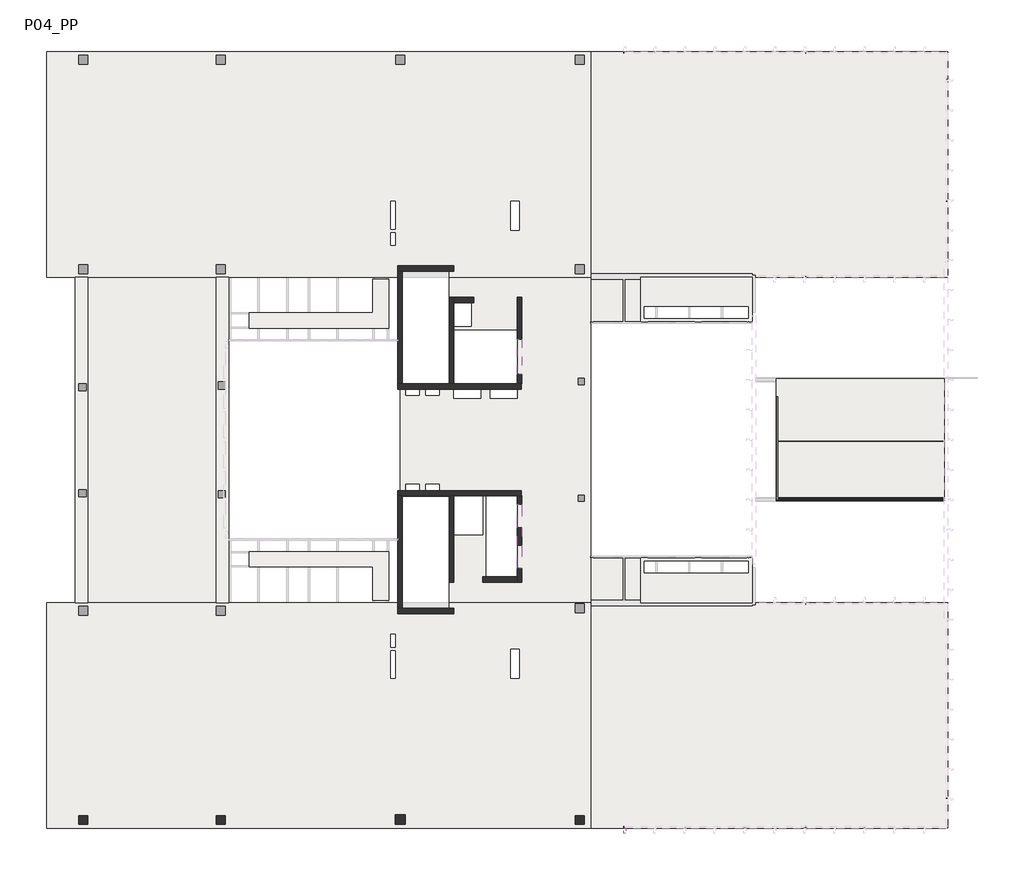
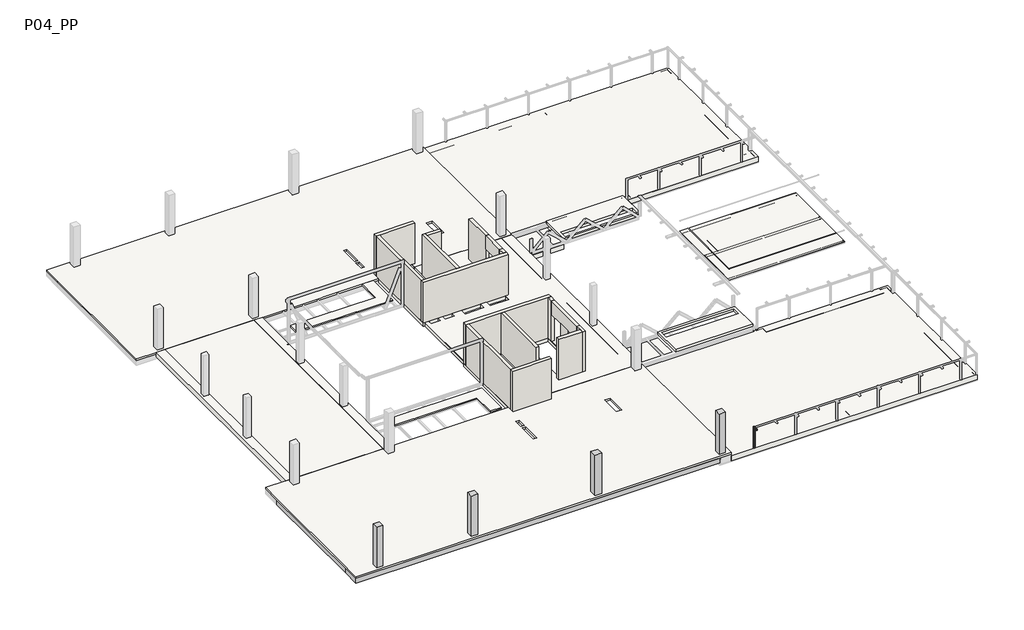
# One storey, part 1 of 5: 17 walls, 12 beams, 9 slabs, 5 columns.
"""IFC4 building model written with IfcOpenShell, lengths in millimetres."""

from ifc_helpers import new_model, si_unit, frame, origin, place, context, project, spatial, polyline, outline, extrude, faceted_brep, transform, mapped, element, save
from components import m_hss_rectangular_hss_100x100_c4b29c07, rhs_rectangular_hollow_section_column_100x100x5_0rhs_4e292c9f

model = new_model("IFC4")

# Units and contexts
model_context = context("Model", 3, world=origin())
ifc_project = project(units=[si_unit("LENGTHUNIT", "METRE", prefix="MILLI")], contexts=[model_context])

# Site, building, storey
site = spatial("IfcSite", under=ifc_project)
building = spatial("IfcBuilding", under=site)
storey = spatial("IfcBuildingStorey", under=building, Name="P04_PP", Elevation=22410.0)

# Beams
placement = place(None, origin())
element("IfcBeam", 1, ObjectType="M_Concrete-Rectangular Beam : 1500 x 550mm", at=placement, inside=storey, context=model_context, shape_type="Brep", body=[
    faceted_brep([(-33190.2931069, -17110.5871866, 21860.0), (-3816.6336782, -17110.5871866, 21860.0), (-3816.6336782, -17110.5871866, 22110.0), (-3763.6636999, -17110.5871866, 22110.0), (-3763.6636999, -17110.5871866, 22260.0), (-33190.2931069, -17110.5871866, 22260.0), (-33190.2931069, -15610.5871866, 21860.0), (-32490.2931069, -15610.5871866, 21860.0), (-31216.2708024, -15610.5871866, 21860.0), (-30816.2708024, -15610.5871866, 21860.0), (-29549.6041367, -15610.5871866, 21860.0), (-29149.6041367, -15610.5871866, 21860.0), (-27882.9374731, -15610.5871866, 21860.0), (-27482.9374731, -15610.5871866, 21860.0), (-26216.2708089, -15610.5871866, 21860.0), (-25816.2708089, -15610.5871866, 21860.0), (-24549.6041453, -15610.5871866, 21860.0), (-24149.6041453, -15610.5871866, 21860.0), (-22882.9374805, -15610.5871866, 21860.0), (-22482.9374805, -15610.5871866, 21860.0), (-21216.2708168, -15610.5871866, 21860.0), (-20816.2708168, -15610.5871866, 21860.0), (-19549.6041539, -15610.5871866, 21860.0), (-19149.6041539, -15610.5871866, 21860.0), (-17882.9374898, -15610.5871866, 21860.0), (-17482.9374898, -15610.5871866, 21860.0), (-16216.2708252, -15610.5871866, 21860.0), (-15816.2708252, -15610.5871866, 21860.0), (-14549.604161, -15610.5871866, 21860.0), (-14149.604161, -15610.5871866, 21860.0), (-12882.9374977, -15610.5871866, 21860.0), (-12482.9374977, -15610.5871866, 21860.0), (-11216.2708336, -15610.5871866, 21860.0), (-10816.2708336, -15610.5871866, 21860.0), (-9549.6041702, -15610.5871866, 21860.0), (-9149.6041702, -15610.5871866, 21860.0), (-7882.9375051, -15610.5871866, 21860.0), (-7482.9375051, -15610.5871866, 21860.0), (-6216.2708415, -15610.5871866, 21860.0), (-5816.2708415, -15610.5871866, 21860.0), (-4549.6041777, -15610.5871866, 21860.0), (-4149.6041777, -15610.5871866, 21860.0), (-3763.6636999, -15610.5871866, 21860.0), (-3763.6636999, -16360.5863397, 21860.0), (-3816.6336781, -16360.5863397, 21860.0), (-13241.1844603, -16910.5878685, 21860.0), (-13241.1844605, -16360.5878685, 21860.0), (-13791.1844605, -16360.5878687, 21860.0), (-13791.1844603, -16910.5878687, 21860.0), (-23240.1750541, -16910.5860682, 21860.0), (-23240.175054, -16360.5860682, 21860.0), (-23790.175054, -16360.5860681, 21860.0), (-23790.1750541, -16910.5860681, 21860.0), (-30841.1764478, -16910.5868854, 21860.0), (-30841.1764478, -16360.5868854, 21860.0), (-31391.1764478, -16360.5868854, 21860.0), (-31391.1764478, -16910.5868854, 21860.0), (-33190.2931069, -15610.5871866, 22260.0), (-32490.2931069, -15610.5871866, 22260.0), (-31216.2708024, -15610.5871866, 22260.0), (-30816.2708024, -15610.5871866, 22260.0), (-29549.6041367, -15610.5871866, 22260.0), (-29149.6041367, -15610.5871866, 22260.0), (-27882.9374731, -15610.5871866, 22260.0), (-27482.9374731, -15610.5871866, 22260.0), (-26216.2708089, -15610.5871866, 22260.0), (-25816.2708089, -15610.5871866, 22260.0), (-24549.6041453, -15610.5871866, 22260.0), (-24149.6041453, -15610.5871866, 22260.0), (-22882.9374805, -15610.5871866, 22260.0), (-22482.9374805, -15610.5871866, 22260.0), (-21216.2708168, -15610.5871866, 22260.0), (-20816.2708168, -15610.5871866, 22260.0), (-19549.6041539, -15610.5871866, 22260.0), (-19149.6041539, -15610.5871866, 22260.0), (-17882.9374898, -15610.5871866, 22260.0), (-17482.9374898, -15610.5871866, 22260.0), (-16216.2708252, -15610.5871866, 22260.0), (-15816.2708252, -15610.5871866, 22260.0), (-14549.604161, -15610.5871866, 22260.0), (-14149.604161, -15610.5871866, 22260.0), (-12882.9374977, -15610.5871866, 22260.0), (-12482.9374977, -15610.5871866, 22260.0), (-11216.2708336, -15610.5871866, 22260.0), (-10816.2708336, -15610.5871866, 22260.0), (-9549.6041702, -15610.5871866, 22260.0), (-9149.6041702, -15610.5871866, 22260.0), (-7882.9375051, -15610.5871866, 22260.0), (-7482.9375051, -15610.5871866, 22260.0), (-6216.2708415, -15610.5871866, 22260.0), (-5816.2708415, -15610.5871866, 22260.0), (-4549.6041777, -15610.5871866, 22260.0), (-4149.6041777, -15610.5871866, 22260.0), (-3763.6636999, -15610.5871866, 22260.0), (-3816.6336781, -16360.5863397, 22110.0), (-3816.6336782, -16910.5863397, 22110.0), (-3763.6636999, -16360.5863397, 22110.0), (-3763.6636999, -16910.5863397, 22110.0), (-13241.1844603, -16910.5878685, 22110.0), (-13241.1844605, -16360.5878685, 22110.0), (-13791.1844603, -16910.5878687, 22110.0), (-13791.1844605, -16360.5878687, 22110.0), (-23240.1750541, -16910.5860682, 22110.0), (-23240.175054, -16360.5860682, 22110.0), (-23790.1750541, -16910.5860681, 22110.0), (-23790.175054, -16360.5860681, 22110.0), (-30841.1764478, -16910.5868854, 22110.0), (-30841.1764478, -16360.5868854, 22110.0), (-31391.1764478, -16910.5868854, 22110.0), (-31391.1764478, -16360.5868854, 22110.0)], [[[0, 1, 2, 3, 4, 5]], [[0, 6, 7, 8, 9, 10, 11, 12, 13, 14, 15, 16, 17, 18, 19, 20, 21, 22, 23, 24, 25, 26, 27, 28, 29, 30, 31, 32, 33, 34, 35, 36, 37, 38, 39, 40, 41, 42, 43, 44, 1], [45, 46, 47, 48], [49, 50, 51, 52], [53, 54, 55, 56]], [[42, 41, 40, 39, 38, 37, 36, 35, 34, 33, 32, 31, 30, 29, 28, 27, 26, 25, 24, 23, 22, 21, 20, 19, 18, 17, 16, 15, 14, 13, 12, 11, 10, 9, 8, 7, 6, 57, 58, 59, 60, 61, 62, 63, 64, 65, 66, 67, 68, 69, 70, 71, 72, 73, 74, 75, 76, 77, 78, 79, 80, 81, 82, 83, 84, 85, 86, 87, 88, 89, 90, 91, 92, 93]], [[6, 0, 5, 57]], [[44, 94, 95, 2, 1]], [[94, 44, 43, 96]], [[94, 96, 97, 3, 2, 95]], [[98, 99, 46, 45]], [[100, 98, 45, 48]], [[101, 100, 48, 47]], [[99, 101, 47, 46]], [[99, 98, 100, 101]], [[102, 103, 50, 49]], [[104, 102, 49, 52]], [[105, 104, 52, 51]], [[103, 105, 51, 50]], [[103, 102, 104, 105]], [[106, 107, 54, 53]], [[108, 106, 53, 56]], [[109, 108, 56, 55]], [[107, 109, 55, 54]], [[107, 106, 108, 109]], [[43, 42, 93, 4, 3, 97, 96]], [[5, 4, 93, 92, 91, 90, 89, 88, 87, 86, 85, 84, 83, 82, 81, 80, 79, 78, 77, 76, 75, 74, 73, 72, 71, 70, 69, 68, 67, 66, 65, 64, 63, 62, 61, 60, 59, 58, 57]]]),
])
element("IfcBeam", 2, ObjectType="M_Concrete-Rectangular Beam : 400 x 550mm", at=placement, inside=storey, context=model_context, shape_type="SweptSolid", body=[
    extrude(outline(polyline([(-31216.2708024, -6060.5861501), (-30816.2708024, -6060.5861501), (-30816.2708024, -15610.5871866), (-31216.2708024, -15610.5871866), (-31216.2708024, -6060.5861501)])), frame((0.0, 0.0, 21860.0), z_axis=(0.0, 0.0, 1.0), x_axis=(1.0, 0.0, 0.0)), (0.0, 0.0, 1.0), 400.0),
])
element("IfcBeam", 3, ObjectType="M_Concrete-Rectangular Beam : 400 x 550mm", at=placement, inside=storey, context=model_context, shape_type="SweptSolid", body=[
    extrude(outline(polyline([(-29549.6041367, -6060.5861501), (-29149.6041367, -6060.5861501), (-29149.6041367, -15610.5871866), (-29549.6041367, -15610.5871866), (-29549.6041367, -6060.5861501)])), frame((0.0, 0.0, 21860.0), z_axis=(0.0, 0.0, 1.0), x_axis=(1.0, 0.0, 0.0)), (0.0, 0.0, 1.0), 400.0),
])
element("IfcBeam", 4, ObjectType="M_Concrete-Rectangular Beam : 400 x 550mm", at=placement, inside=storey, context=model_context, shape_type="SweptSolid", body=[
    extrude(outline(polyline([(-27882.9374731, -6060.5861501), (-27482.9374731, -6060.5861501), (-27482.9374731, -15610.5871866), (-27882.9374731, -15610.5871866), (-27882.9374731, -6060.5861501)])), frame((0.0, 0.0, 21860.0), z_axis=(0.0, 0.0, 1.0), x_axis=(1.0, 0.0, 0.0)), (0.0, 0.0, 1.0), 400.0),
])
element("IfcBeam", 5, ObjectType="M_Concrete-Rectangular Beam : 400 x 550mm", at=placement, inside=storey, context=model_context, shape_type="SweptSolid", body=[
    extrude(outline(polyline([(-26216.2708089, -6060.5861501), (-25816.2708089, -6060.5861501), (-25816.2708089, -15610.5871866), (-26216.2708089, -15610.5871866), (-26216.2708089, -6060.5861501)])), frame((0.0, 0.0, 21860.0), z_axis=(0.0, 0.0, 1.0), x_axis=(1.0, 0.0, 0.0)), (0.0, 0.0, 1.0), 400.0),
])
element("IfcBeam", 6, ObjectType="M_Concrete-Rectangular Beam : 400 x 550mm", at=placement, inside=storey, context=model_context, shape_type="SweptSolid", body=[
    extrude(outline(polyline([(-24549.6041453, -6060.5861501), (-24149.6041453, -6060.5861501), (-24149.6041453, -15610.5871866), (-24549.6041453, -15610.5871866), (-24549.6041453, -6060.5861501)])), frame((0.0, 0.0, 21860.0), z_axis=(0.0, 0.0, 1.0), x_axis=(1.0, 0.0, 0.0)), (0.0, 0.0, 1.0), 400.0),
])
element("IfcBeam", 7, ObjectType="M_Concrete-Rectangular Beam : 400 x 550mm", at=placement, inside=storey, context=model_context, shape_type="SweptSolid", body=[
    extrude(outline(polyline([(-22882.9374805, -6060.5861501), (-22482.9374805, -6060.5861501), (-22482.9374805, -15610.5871866), (-22882.9374805, -15610.5871866), (-22882.9374805, -6060.5861501)])), frame((0.0, 0.0, 21860.0), z_axis=(0.0, 0.0, 1.0), x_axis=(1.0, 0.0, 0.0)), (0.0, 0.0, 1.0), 400.0),
])
element("IfcBeam", 8, ObjectType="M_Concrete-Rectangular Beam : 400 x 550mm", at=placement, inside=storey, context=model_context, shape_type="SweptSolid", body=[
    extrude(outline(polyline([(-21216.2708168, -6060.5861501), (-20816.2708168, -6060.5861501), (-20816.2708168, -15610.5871866), (-21216.2708168, -15610.5871866), (-21216.2708168, -6060.5861501)])), frame((0.0, 0.0, 21860.0), z_axis=(0.0, 0.0, 1.0), x_axis=(1.0, 0.0, 0.0)), (0.0, 0.0, 1.0), 400.0),
])
element("IfcBeam", 9, ObjectType="M_Concrete-Rectangular Beam : 400 x 550mm", at=placement, inside=storey, context=model_context, shape_type="SweptSolid", body=[
    extrude(outline(polyline([(-19549.6041539, -6060.5861501), (-19149.6041539, -6060.5861501), (-19149.6041539, -15610.5871866), (-19549.6041539, -15610.5871866), (-19549.6041539, -6060.5861501)])), frame((0.0, 0.0, 21860.0), z_axis=(0.0, 0.0, 1.0), x_axis=(1.0, 0.0, 0.0)), (0.0, 0.0, 1.0), 400.0),
])
element("IfcBeam", 10, ObjectType="M_Concrete-Rectangular Beam : 400 x 550mm", at=placement, inside=storey, context=model_context, shape_type="SweptSolid", body=[
    extrude(outline(polyline([(-17882.9374898, -6060.5861501), (-17482.9374898, -6060.5861501), (-17482.9374898, -15610.5871866), (-17882.9374898, -15610.5871866), (-17882.9374898, -6060.5861501)])), frame((0.0, 0.0, 21860.0), z_axis=(0.0, 0.0, 1.0), x_axis=(1.0, 0.0, 0.0)), (0.0, 0.0, 1.0), 400.0),
])
element("IfcBeam", 11, ObjectType="M_Concrete-Rectangular Beam : 700 x 550mm", at=placement, inside=storey, context=model_context, shape_type="SweptSolid", body=[
    extrude(outline(polyline([(-33190.2931069, -6060.5861501), (-32490.2931069, -6060.5861501), (-32490.2931069, -15610.5871866), (-33190.2931069, -15610.5871866), (-33190.2931069, -6060.5861501)])), frame((0.0, 0.0, 21860.0), z_axis=(0.0, 0.0, 1.0), x_axis=(1.0, 0.0, 0.0)), (0.0, 0.0, 1.0), 400.0),
])
m_hss_rectangular_hss_100x100_shape = m_hss_rectangular_hss_100x100_c4b29c07(model_context)
element("IfcBeam", 12, ObjectType="M_HSS Rectangular : HSS 100x100", at=placement, inside=storey, context=model_context, shape_type="MappedRepresentation", body=[
    mapped(m_hss_rectangular_hss_100x100_shape, transform((-1015.318447, -17225.5845792, 23860.0), x_axis=(1.2959202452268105e-06, -0.9999999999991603, 0.0), y_axis=(0.9999999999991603, 1.2959202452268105e-06, 0.0), z_axis=(0.0, 0.0, 1.0))),
])

# Columns
element("IfcColumn", 13, ObjectType="Concrete-Rectangular-Column : Pilar_Rectangular-Formigo-500x500", at=placement, inside=storey, context=model_context, shape_type="Brep", body=[
    faceted_brep([(-3266.6679062, -16410.606681, 22410.0), (-3266.6679018, -16910.606681, 22410.0), (-3766.6679018, -16910.6066854, 22410.0), (-3766.6679062, -16410.6066854, 22410.0), (-3266.6679062, -16410.606681, 25860.0), (-3266.6679018, -16910.606681, 25860.0), (-3266.6679018, -16910.606681, 25610.0), (-3266.6679062, -16410.606681, 25610.0), (-3766.6679018, -16910.6066854, 25860.0), (-3766.6679018, -16910.6066854, 25610.0), (-3766.6679062, -16410.6066854, 25860.0), (-3766.6679062, -16410.6066854, 25610.0)], [[[0, 1, 2, 3]], [[4, 5, 6, 1, 0, 7]], [[5, 8, 9, 2, 1, 6]], [[8, 10, 11, 3, 2, 9]], [[10, 4, 7, 0, 3, 11]], [[4, 10, 8, 5]]]),
])
element("IfcColumn", 14, ObjectType="Concrete-Rectangular-Column : Pilar_Rectangular-Formigo-550x550", at=placement, inside=storey, context=model_context, shape_type="Brep", body=[
    faceted_brep([(-13241.2186928, -16360.5863263, 22410.0), (-13241.2186884, -16910.5863263, 22410.0), (-13791.2186884, -16910.5863307, 22410.0), (-13791.2186928, -16360.5863307, 22410.0), (-13241.2186928, -16360.5863263, 25860.0), (-13241.2186884, -16910.5863263, 25860.0), (-13241.2186884, -16910.5863263, 25610.0), (-13241.2186928, -16360.5863263, 25610.0), (-13791.2186884, -16910.5863307, 25860.0), (-13791.2186884, -16910.5863307, 25610.0), (-13791.2186928, -16360.5863307, 25860.0), (-13791.2186928, -16360.5863307, 25610.0)], [[[0, 1, 2, 3]], [[4, 5, 6, 1, 0, 7]], [[5, 8, 9, 2, 1, 6]], [[8, 10, 11, 3, 2, 9]], [[10, 4, 7, 0, 3, 11]], [[4, 10, 8, 5]]]),
])
element("IfcColumn", 15, ObjectType="Concrete-Rectangular-Column : Pilar_Rectangular-Formigo-500x500", at=placement, inside=storey, context=model_context, shape_type="Brep", body=[
    faceted_brep([(-23241.0752906, -16410.6064, 22410.0), (-23241.075288, -16910.6064, 22410.0), (-23741.075288, -16910.6064026, 22410.0), (-23741.0752906, -16410.6064026, 22410.0), (-23241.0752906, -16410.6064, 25860.0), (-23241.075288, -16910.6064, 25860.0), (-23241.075288, -16910.6064, 25610.0), (-23241.0752906, -16410.6064, 25610.0), (-23741.075288, -16910.6064026, 25860.0), (-23741.075288, -16910.6064026, 25610.0), (-23741.0752906, -16410.6064026, 25860.0), (-23741.0752906, -16410.6064026, 25610.0)], [[[0, 1, 2, 3]], [[4, 5, 6, 1, 0, 7]], [[5, 8, 9, 2, 1, 6]], [[8, 10, 11, 3, 2, 9]], [[10, 4, 7, 0, 3, 11]], [[4, 10, 8, 5]]]),
])
element("IfcColumn", 16, ObjectType="Concrete-Rectangular-Column : Pilar_Rectangular-Formigo-500x500", at=placement, inside=storey, context=model_context, shape_type="Brep", body=[
    faceted_brep([(-30891.2106755, -16410.6072254, 22410.0), (-30891.2106729, -16910.6072254, 22410.0), (-31391.2106729, -16910.607228, 22410.0), (-31391.2106755, -16410.607228, 22410.0), (-30891.2106755, -16410.6072254, 25860.0), (-30891.2106729, -16910.6072254, 25860.0), (-30891.2106729, -16910.6072254, 25610.0), (-30891.2106755, -16410.6072254, 25610.0), (-31391.2106729, -16910.607228, 25860.0), (-31391.2106729, -16910.607228, 25610.0), (-31391.2106755, -16410.607228, 25860.0), (-31391.2106755, -16410.607228, 25610.0)], [[[0, 1, 2, 3]], [[4, 5, 6, 1, 0, 7]], [[5, 8, 9, 2, 1, 6]], [[8, 10, 11, 3, 2, 9]], [[10, 4, 7, 0, 3, 11]], [[4, 10, 8, 5]]]),
])
rhs_rectangular_hollow_section_column_100x100x5_0rhs_shape = rhs_rectangular_hollow_section_column_100x100x5_0rhs_4e292c9f(model_context)
element("IfcColumn", 17, ObjectType="RHS-Rectangular Hollow Section-Column : 100x100x5.0RHS", at=placement, inside=storey, context=model_context, shape_type="MappedRepresentation", body=[
    mapped(rhs_rectangular_hollow_section_column_100x100x5_0rhs_shape, transform((-1015.3191505, -17060.5829556, 0.0), x_axis=(0.9999999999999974, 7.31663958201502e-08, 0.0), y_axis=(-7.31663958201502e-08, 0.9999999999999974, 0.0), z_axis=(0.0, 0.0, 1.0))),
])

# Slabs
element("IfcSlab", 18, ObjectType="Forjat_Llosa-Formigo-200", at=placement, inside=storey, context=model_context, shape_type="SweptSolid", body=[
    extrude(outline(polyline([(6059.7238546, 13539.4122612), (6059.7238546, 11054.6240603), (-132.741034, 11054.6238674), (-132.741034, 13539.4122612), (6059.7238546, 13539.4122612)]), holes=[polyline([(5859.7238546, 11880.9207925), (67.258966, 11880.9209764), (67.258966, 11254.6239488), (5859.7238546, 11254.6239488), (5859.7238546, 11880.9207925)])]), frame((0.0, 0.0, 22410.0), z_axis=(0.0, 0.0, 1.0), x_axis=(1.0, 0.0, 0.0)), (0.0, 0.0, 1.0), 200.0),
])
element("IfcSlab", 19, ObjectType="Forjat_Llosa-Formigo-400", at=placement, inside=storey, context=model_context, shape_type="SweptSolid", body=[
    extrude(outline(polyline([(16958.7687509, -17110.5883768), (-2913.6343046, -17110.5883881), (-2913.6343132, -2074.8316091), (-132.741028, -2074.8316974), (-132.741028, -4560.5873134), (16958.7687437, -4560.5873036), (16958.7687509, -17110.5883768)])), frame((0.0, 0.0, 21710.0), z_axis=(0.0, 0.0, 1.0), x_axis=(1.0, 0.0, 0.0)), (0.0, 0.0, 1.0), 400.0),
    extrude(outline(polyline([(16958.7687108, 26089.4122824), (16958.768718, 13539.4122723), (-132.741034, 13539.4122625), (-132.741034, 11054.6239613), (-2912.724477, 11054.6238747), (-2912.7244856, 26089.4122711), (16958.7687108, 26089.4122824)])), frame((0.0, 0.0, 21710.0), z_axis=(0.0, 0.0, 1.0), x_axis=(1.0, 0.0, 0.0)), (0.0, 0.0, 1.0), 400.0),
])
element("IfcSlab", 20, ObjectType="Forjat_Llosa-Formigo-150", at=placement, inside=storey, context=model_context, shape_type="Brep", body=[
    faceted_brep([(-33190.2931093, -17110.5868311, 22260.0), (-33190.2931093, -4560.5857933, 22260.0), (-13390.3216429, -4560.5857933, 22260.0), (-13390.3216429, -4885.1039312, 22260.0), (-10790.2146087, -4885.1039312, 22260.0), (-10790.2146087, -4560.5857933, 22260.0), (-2913.6343046, -4560.5857933, 22260.0), (-2913.6343046, -6060.5861501, 22260.0), (-2913.6343046, -17110.5868311, 22260.0), (-7355.3596943, -8775.7081757, 22260.0), (-6905.3202496, -8775.7081751, 22260.0), (-6905.3202486, -7164.135997, 22260.0), (-7355.3596935, -7164.1359972, 22260.0), (-13795.316559, -7035.8370988, 22260.0), (-13795.3165589, -6335.8371015, 22260.0), (-14045.3165545, -6335.8371012, 22260.0), (-14045.3165543, -7035.8370994, 22260.0), (-13795.3165592, -8774.2557811, 22260.0), (-13795.316559, -7235.8371005, 22260.0), (-14045.3165585, -7235.8371008, 22260.0), (-14045.3165588, -8774.2557822, 22260.0), (-33190.2931093, -4560.5857933, 22410.0), (-33190.2931093, -17110.5868311, 22410.0), (-2913.6343046, -17110.5868311, 22410.0), (-2913.6343046, -4560.5857933, 22410.0), (-3763.6343046, -4560.5857933, 22410.0), (-6715.3241677, -4560.5857933, 22410.0), (-7015.3241677, -4560.5857933, 22410.0), (-10790.2146087, -4560.5857933, 22410.0), (-10790.2146087, -4885.1039312, 22410.0), (-13390.3216429, -4885.1039312, 22410.0), (-13390.3216429, -4560.5857933, 22410.0), (-23041.1819308, -4560.5857933, 22410.0), (-23741.1819308, -4560.5857933, 22410.0), (-30891.2267916, -4560.5857933, 22410.0), (-31591.2267916, -4560.5857933, 22410.0), (-6905.3202496, -8775.7081751, 22410.0), (-7355.3596943, -8775.7081757, 22410.0), (-7355.3596935, -7164.1359972, 22410.0), (-6905.3202486, -7164.135997, 22410.0), (-13795.3165589, -6335.8371015, 22410.0), (-13795.316559, -7035.8370988, 22410.0), (-14045.3165543, -7035.8370994, 22410.0), (-14045.3165545, -6335.8371012, 22410.0), (-13795.316559, -7235.8371005, 22410.0), (-13795.3165592, -8774.2557811, 22410.0), (-14045.3165588, -8774.2557822, 22410.0), (-14045.3165585, -7235.8371008, 22410.0)], [[[0, 1, 2, 3, 4, 5, 6, 7, 8], [9, 10, 11, 12], [13, 14, 15, 16], [17, 18, 19, 20]], [[21, 22, 23, 24, 25, 26, 27, 28, 29, 30, 31, 32, 33, 34, 35], [36, 37, 38, 39], [40, 41, 42, 43], [44, 45, 46, 47]], [[1, 0, 22, 21]], [[1, 21, 35, 34, 33, 32, 31, 2]], [[24, 6, 5, 28, 27, 26, 25]], [[8, 7, 6, 24, 23]], [[0, 8, 23, 22]], [[4, 29, 28, 5]], [[30, 3, 2, 31]], [[29, 4, 3, 30]], [[9, 37, 36, 10]], [[10, 36, 39, 11]], [[11, 39, 38, 12]], [[37, 9, 12, 38]], [[13, 41, 40, 14]], [[14, 40, 43, 15]], [[15, 43, 42, 16]], [[41, 13, 16, 42]], [[17, 45, 44, 18]], [[18, 44, 47, 19]], [[19, 47, 46, 20]], [[45, 17, 20, 46]]]),
    faceted_brep([(-33190.2931069, 13539.4137942, 22260.0), (-33190.2931069, 15039.4134441, 22260.0), (-33190.2931069, 24589.4144807, 22260.0), (-33190.2931069, 26089.4138015, 22260.0), (-2913.6636999, 26089.4138015, 22260.0), (-2913.6636999, 15039.4134441, 22260.0), (-2913.6636999, 13539.4137942, 22260.0), (-10790.2146087, 13539.4137942, 22260.0), (-10790.2146087, 13864.8960677, 22260.0), (-13390.3216429, 13864.8960677, 22260.0), (-13390.3216429, 13539.4137942, 22260.0), (-7355.3596943, 17755.5003122, 22260.0), (-7355.3596935, 16143.9281337, 22260.0), (-6905.3202486, 16143.9281335, 22260.0), (-6905.3202496, 17755.5003116, 22260.0), (-13795.316559, 16015.6292353, 22260.0), (-14045.3165543, 16015.6292358, 22260.0), (-14045.3165545, 15315.6292377, 22260.0), (-13795.3165589, 15315.629238, 22260.0), (-13795.3165592, 17754.0479176, 22260.0), (-14045.3165588, 17754.0479187, 22260.0), (-14045.3165585, 16215.6292373, 22260.0), (-13795.316559, 16215.629237, 22260.0), (-33190.2931069, 26089.4138015, 22410.0), (-33190.2931069, 13539.4137942, 22410.0), (-31591.2267916, 13539.4137942, 22410.0), (-30891.2267916, 13539.4137942, 22410.0), (-23741.1819308, 13539.4137942, 22410.0), (-23041.1819308, 13539.4137942, 22410.0), (-13390.3216429, 13539.4137942, 22410.0), (-13390.3216429, 13864.8960677, 22410.0), (-10790.2146087, 13864.8960677, 22410.0), (-10790.2146087, 13539.4137942, 22410.0), (-7015.3241677, 13539.4137942, 22410.0), (-6715.3241677, 13539.4137942, 22410.0), (-3763.6343046, 13539.4137942, 22410.0), (-2913.6636999, 13539.4137942, 22410.0), (-2913.6636999, 26089.4138015, 22410.0), (-7355.3596935, 16143.9281337, 22410.0), (-7355.3596943, 17755.5003122, 22410.0), (-6905.3202496, 17755.5003116, 22410.0), (-6905.3202486, 16143.9281335, 22410.0), (-14045.3165543, 16015.6292358, 22410.0), (-13795.316559, 16015.6292353, 22410.0), (-13795.3165589, 15315.629238, 22410.0), (-14045.3165545, 15315.6292377, 22410.0), (-14045.3165588, 17754.0479187, 22410.0), (-13795.3165592, 17754.0479176, 22410.0), (-13795.316559, 16215.629237, 22410.0), (-14045.3165585, 16215.6292373, 22410.0)], [[[0, 1, 2, 3, 4, 5, 6, 7, 8, 9, 10], [11, 12, 13, 14], [15, 16, 17, 18], [19, 20, 21, 22]], [[23, 24, 25, 26, 27, 28, 29, 30, 31, 32, 33, 34, 35, 36, 37], [38, 39, 40, 41], [42, 43, 44, 45], [46, 47, 48, 49]], [[24, 0, 10, 29, 28, 27, 26, 25]], [[6, 36, 35, 34, 33, 32, 7]], [[3, 2, 1, 0, 24, 23]], [[4, 3, 23, 37]], [[6, 5, 4, 37, 36]], [[8, 31, 30, 9]], [[9, 30, 29, 10]], [[31, 8, 7, 32]], [[11, 39, 38, 12]], [[12, 38, 41, 13]], [[13, 41, 40, 14]], [[39, 11, 14, 40]], [[15, 43, 42, 16]], [[16, 42, 45, 17]], [[17, 45, 44, 18]], [[43, 15, 18, 44]], [[19, 47, 46, 20]], [[20, 46, 49, 21]], [[21, 49, 48, 22]], [[47, 19, 22, 48]]]),
])
element("IfcSlab", 21, ObjectType="Forjat_Llosa-Formigo-300", at=placement, inside=storey, context=model_context, shape_type="SweptSolid", body=[
    extrude(outline(polyline([(-23041.1819308, -4560.5873615), (-31591.2267813, -4560.5873663), (-31591.2267916, 13539.4122314), (-23041.1819408, 13539.4122363), (-23041.1819308, -4560.5873615)])), frame((0.0, 0.0, 22110.0), z_axis=(0.0, 0.0, 1.0), x_axis=(1.0, 0.0, 0.0)), (0.0, 0.0, 1.0), 300.0),
    extrude(outline(polyline([(-13640.3216401, 7314.8960673), (-13640.3216435, 13539.4134441), (-13390.3216429, 13539.4134442), (-13390.3216429, 7614.8960673), (-10790.2146087, 7614.8960673), (-10790.2146087, 13539.4134456), (-2913.634315, 13539.4134499), (-2913.6343046, -4560.5873347), (-10790.2146087, -4560.5873432), (-10790.2146087, 1364.8960692), (-13390.3216429, 1364.8960692), (-13390.3216429, -4560.587346), (-13640.3216336, -4560.5873463), (-13640.321637, 1664.8960692), (-13515.321637, 1664.8960692), (-13515.3216435, 7314.8960673), (-13640.3216401, 7314.8960673)]), holes=[polyline([(-8915.3273673, -795.1004405), (-8915.3273673, 1364.8960692), (-10540.2146087, 1364.8960692), (-10540.2146087, -795.1004405), (-8915.3273673, -795.1004405)]), polyline([(-7015.32737, -3135.1012912), (-7015.32737, 1364.8960692), (-8715.3273692, 1364.8960692), (-8715.3273692, -3135.1012912), (-7015.32737, -3135.1012912)]), polyline([(-7015.3216444, 10594.8839421), (-10540.2146087, 10594.8839421), (-10540.2146087, 7614.8960673), (-7015.3216444, 7614.8960673), (-7015.3216444, 10594.8839421)]), polyline([(-9575.3241515, 12114.8934277), (-10540.2146087, 12114.8934277), (-10540.2146087, 10794.8973525), (-9575.3241515, 10794.8973525), (-9575.3241515, 12114.8934277)]), polyline([(-12465.3183759, 6964.8891848), (-12465.3183704, 7314.8960673), (-13215.3183723, 7314.8960673), (-13215.3183768, 6964.8891841), (-12465.3183759, 6964.8891848)]), polyline([(-12090.3183694, 6964.8891882), (-11340.3183722, 6964.8891882), (-11340.3183685, 7314.8960673), (-12090.3183704, 7314.8960673), (-12090.3183694, 6964.8891882)]), polyline([(-12465.317339, 2014.8973051), (-13215.3183744, 2014.8973051), (-13215.3183744, 1664.8968204), (-12465.317339, 1664.8968204), (-12465.317339, 2014.8973051)]), polyline([(-11340.3173363, 2014.8973051), (-12090.3183821, 2014.8973051), (-12090.3183821, 1664.8968204), (-11340.3173363, 1664.8968204), (-11340.3173363, 2014.8973051)]), polyline([(-9040.3216312, 7314.8929869), (-10540.3361965, 7314.8929869), (-10540.3361965, 6814.888132), (-9040.3216312, 6814.888132), (-9040.3216312, 7314.8929869)]), polyline([(-7015.3241584, 7314.892988), (-8515.3387237, 7314.892988), (-8515.3387237, 6814.888133), (-7015.3241584, 6814.888133), (-7015.3241584, 7314.892988)])]), frame((0.0, 0.0, 22110.0), z_axis=(0.0, 0.0, 1.0), x_axis=(1.0, 0.0, 0.0)), (0.0, 0.0, 1.0), 300.0),
])
element("IfcSlab", 22, ObjectType="Forjat_Llosa-Formigo-400", at=placement, inside=storey, context=model_context, shape_type="SweptSolid", body=[
    extrude(outline(polyline([(-31591.2255939, -4560.5873663), (-31591.2256043, 13539.4122314), (-30891.2267996, 13539.4122318), (-30891.2267788, -4560.5873659), (-31591.2255939, -4560.5873663)])), frame((0.0, 0.0, 22010.0), z_axis=(0.0, 0.0, 1.0), x_axis=(1.0, 0.0, 0.0)), (0.0, 0.0, 1.0), 400.0),
    extrude(outline(polyline([(-23741.1819185, -4560.5873571), (-23741.1819402, 13539.4122428), (-23041.1835137, 13539.4122432), (-23041.1835037, -4560.5873564), (-23741.1819185, -4560.5873571)])), frame((0.0, 0.0, 22010.0), z_axis=(0.0, 0.0, 1.0), x_axis=(1.0, 0.0, 0.0)), (0.0, 0.0, 1.0), 400.0),
])
element("IfcSlab", 23, ObjectType="Forjat_Llosa-Relliga-100", at=placement, inside=storey, context=model_context, shape_type="SweptSolid", body=[
    extrude(outline(polyline([(-21915.4459309, -2583.0874625), (-21915.4459314, -1728.0871839), (-14149.4459331, -1728.0871839), (-14149.4459331, -4439.621344), (-15031.4459326, -4439.621344), (-15031.4459326, -2583.0874625), (-21915.4459309, -2583.0874625)])), frame((0.0, 0.0, 22410.0), z_axis=(0.0, 0.0, 1.0), x_axis=(1.0, 0.0, 0.0)), (0.0, 0.0, 1.0), 100.0),
])
element("IfcSlab", 24, ObjectType="Forjat_Llosa-Formigo-200", at=placement, inside=storey, context=model_context, shape_type="SweptSolid", body=[
    extrude(outline(polyline([(6059.7238546, -4560.5849672), (-132.741034, -4560.5849672), (-132.741034, -2075.7965734), (6059.7238546, -2075.7967663), (6059.7238546, -4560.5849672)]), holes=[polyline([(5859.7238546, -2902.0934985), (5859.7238546, -2275.7966548), (67.258966, -2275.7966548), (67.258966, -2902.0936824), (5859.7238546, -2902.0934985)])]), frame((0.0, 0.0, 22410.0), z_axis=(0.0, 0.0, 1.0), x_axis=(1.0, 0.0, 0.0)), (0.0, 0.0, 1.0), 200.0),
])
element("IfcSlab", 25, ObjectType="Forjat_Llosa-Relliga-100", at=placement, inside=storey, context=model_context, shape_type="SweptSolid", body=[
    extrude(outline(polyline([(-21915.4459309, 11562.8793206), (-15031.4459326, 11562.8793206), (-15031.4459326, 13419.4132021), (-14149.4459331, 13419.4132021), (-14149.4459331, 10707.879042), (-21915.4459314, 10707.879042), (-21915.4459309, 11562.8793206)])), frame((0.0, 0.0, 22410.0), z_axis=(0.0, 0.0, 1.0), x_axis=(1.0, 0.0, 0.0)), (0.0, 0.0, 1.0), 100.0),
])
element("IfcSlab", 26, ObjectType="Forjat_Llosa-Relliga-30", at=placement, inside=storey, context=model_context, shape_type="SweptSolid", body=[
    extrude(outline(polyline([(16759.6605952, 1065.745941), (7419.0763518, 1065.7459874), (7419.0763518, 7932.545989), (16759.6605944, 7932.5459425), (16759.6605952, 1065.745941)])), frame((0.0, 0.0, 22480.0), z_axis=(0.0, 0.0, 1.0), x_axis=(1.0, 0.0, 0.0)), (0.0, 0.0, 1.0), 30.0),
])

# Walls
element("IfcWall", 27, ObjectType="0_Muro Concreto_250", at=placement, inside=storey, context=model_context, shape_type="Brep", body=[
    faceted_brep([(-13640.3216429, 13864.8960687, 22410.0), (-13640.3216429, 7614.8960673, 22410.0), (-13640.3216429, 7614.8960673, 25859.9777344), (-13640.3216429, 13539.4134441, 25859.9777344), (-13640.3216429, 13864.8960687, 25859.9777344), (-13390.3216429, 13864.8960687, 22410.0), (-13390.3216429, 13864.8960687, 25610.0), (-13390.3216429, 13864.8960687, 25859.9777344), (-13390.3216429, 13539.4134441, 25859.9777344), (-13390.3216429, 7614.8960673, 25859.9777344), (-13390.3216429, 7614.8960673, 22410.0)], [[[0, 1, 2, 3, 4]], [[5, 6, 7, 8, 9, 10]], [[1, 0, 5, 10]], [[4, 3, 2, 9, 8, 7]], [[0, 4, 7, 6, 5]], [[2, 1, 10, 9]]]),
])
element("IfcWall", 28, ObjectType="0_Muro Concreto_250", at=placement, inside=storey, context=model_context, shape_type="Brep", body=[
    faceted_brep([(-10790.2146087, 12414.8934136, 22410.0), (-10790.2146087, 7614.8960673, 22410.0), (-10790.2146087, 7614.8960673, 25859.9777344), (-10790.2146087, 12414.8934136, 25859.9777344), (-10540.2146087, 12414.8934136, 22410.0), (-10540.2146087, 12414.8934136, 25859.9777344), (-10540.2146087, 12114.8934136, 25859.9777344), (-10540.2146087, 7614.8960673, 25859.9777344), (-10540.2146087, 7614.8960673, 22410.0), (-10540.2146087, 12114.8934136, 22410.0)], [[[0, 1, 2, 3]], [[4, 5, 6, 7, 8, 9]], [[1, 0, 4, 9, 8]], [[3, 2, 7, 6, 5]], [[0, 3, 5, 4]], [[2, 1, 8, 7]]]),
])
element("IfcWall", 29, ObjectType="0_Muro Concreto_250", at=placement, inside=storey, context=model_context, shape_type="Brep", body=[
    faceted_brep([(-13390.3216429, -4885.1039323, 22410.0), (-13390.3216429, 1364.8960692, 22410.0), (-13390.3216429, 1364.8960692, 25859.9777344), (-13390.3216429, -4560.5861501, 25859.9777344), (-13390.3216429, -4885.1039323, 25859.9777344), (-13390.3216429, -4885.1039323, 25610.0), (-13640.3216429, -4885.1039323, 22410.0), (-13640.3216429, -4885.1039323, 25859.9777344), (-13640.3216429, -4560.5861501, 25859.9777344), (-13640.3216429, 1364.8960692, 25859.9777344), (-13640.3216429, 1364.8960692, 22410.0)], [[[0, 1, 2, 3, 4, 5]], [[6, 7, 8, 9, 10]], [[1, 0, 6, 10]], [[4, 3, 2, 9, 8, 7]], [[0, 5, 4, 7, 6]], [[2, 1, 10, 9]]]),
])
element("IfcWall", 30, ObjectType="0_Muro Concreto_250", at=placement, inside=storey, context=model_context, shape_type="SweptSolid", body=[
    extrude(outline(polyline([(-10540.2146087, 1364.8960692), (-10540.2146087, -3435.1012772), (-10790.2146087, -3435.1012772), (-10790.2146087, 1364.8960692), (-10540.2146087, 1364.8960692)])), frame((0.0, 0.0, 22410.0), z_axis=(0.0, 0.0, 1.0), x_axis=(1.0, 0.0, 0.0)), (0.0, 0.0, 1.0), 3449.9777344),
])
element("IfcWall", 31, ObjectType="0_Muro Concreto_250", at=placement, inside=storey, context=model_context, shape_type="Brep", body=[
    faceted_brep([(-7015.3215886, 12414.8934351, 22410.0), (-7015.3215909, 10084.2914836, 22410.0), (-7015.3215909, 10084.2914836, 24710.0), (-7015.3215909, 10084.2914836, 25859.9777344), (-7015.3215886, 12414.8934351, 25859.9777344), (-6765.3215886, 12414.8934349, 22410.0), (-6765.3215886, 12414.8934349, 25859.9777344), (-6765.3215909, 10084.2914833, 25859.9777344), (-6765.3215909, 10084.2914833, 24710.0), (-6765.3215909, 10084.2914833, 22410.0)], [[[0, 1, 2, 3, 4]], [[5, 6, 7, 8, 9]], [[1, 0, 5, 9]], [[3, 2, 1, 9, 8, 7]], [[4, 3, 7, 6]], [[0, 4, 6, 5]]]),
])
element("IfcWall", 32, ObjectType="0_Muro Concreto_250", at=placement, inside=storey, context=model_context, shape_type="SweptSolid", body=[
    extrude(outline(polyline([(-7015.3216444, 7614.8960673), (-7015.3216444, 8144.2911718), (-6765.3216444, 8144.2911718), (-6765.3216444, 7614.8960673), (-7015.3216444, 7614.8960673)])), frame((0.0, 0.0, 22410.0), z_axis=(0.0, 0.0, 1.0), x_axis=(1.0, 0.0, 0.0)), (0.0, 0.0, 1.0), 3449.9777344),
])
element("IfcWall", 33, ObjectType="0_Muro Concreto_250", at=placement, inside=storey, context=model_context, shape_type="SweptSolid", body=[
    extrude(outline(polyline([(-6765.3247837, -405.0894087), (-6765.3247837, -1365.1031796), (-7015.3247837, -1365.1031796), (-7015.3247837, -405.0894087), (-6765.3247837, -405.0894087)])), frame((0.0, 0.0, 22410.0), z_axis=(0.0, 0.0, 1.0), x_axis=(1.0, 0.0, 0.0)), (0.0, 0.0, 1.0), 2300.0),
])
element("IfcWall", 34, ObjectType="0_Muro Concreto_250", at=placement, inside=storey, context=model_context, shape_type="SweptSolid", body=[
    extrude(outline(polyline([(-6765.3216444, 1364.8960692), (-6765.3247835, 894.9105912), (-7015.3247835, 894.912261), (-7015.3216444, 1364.897739), (-6765.3216444, 1364.8960692)])), frame((0.0, 0.0, 22410.0), z_axis=(0.0, 0.0, 1.0), x_axis=(1.0, 0.0, 0.0)), (0.0, 0.0, 1.0), 3449.9777344),
])
element("IfcWall", 35, ObjectType="0_Muro Concreto_250", at=placement, inside=storey, context=model_context, shape_type="Brep", body=[
    faceted_brep([(-6765.3247845, -3435.1012772, 22410.0), (-6765.3247845, -2665.1031808, 22410.0), (-6765.3247845, -2665.1031808, 24710.0), (-6765.3247845, -2665.1031808, 25859.9777344), (-6765.3247845, -3435.1012772, 25859.9777344), (-7015.3247845, -3435.1012772, 22410.0), (-7015.3247845, -3435.1012772, 25859.9777344), (-7015.3247845, -3135.1012772, 25859.9777344), (-7015.3247845, -2665.1031808, 25859.9777344), (-7015.3247845, -2665.1031808, 24710.0), (-7015.3247845, -2665.1031808, 22410.0), (-7015.3247845, -3135.1012772, 22410.0)], [[[0, 1, 2, 3, 4]], [[5, 6, 7, 8, 9, 10, 11]], [[1, 0, 5, 11, 10]], [[3, 2, 1, 10, 9, 8]], [[4, 3, 8, 7, 6]], [[0, 4, 6, 5]]]),
])
element("IfcWall", 36, ObjectType="0_Muro Concreto_250", at=placement, inside=storey, context=model_context, shape_type="Brep", body=[
    faceted_brep([(-6765.3247835, -2665.1031808, 24710.0), (-6765.3247835, -1365.1031796, 24710.0), (-6765.3247835, -405.0894087, 24710.0), (-6765.3247835, 894.9114261, 24710.0), (-6765.3247835, 894.9114261, 25860.0), (-6765.3247835, -2665.1031808, 25860.0), (-7015.3247835, -2665.1031808, 24710.0), (-7015.3247835, -2665.1031808, 25860.0), (-7015.3247835, 894.9114261, 25860.0), (-7015.3247835, 894.9114261, 24710.0), (-7015.3247835, -405.0894087, 24710.0), (-7015.3247835, -1365.1031796, 24710.0)], [[[0, 1, 2, 3, 4, 5]], [[6, 7, 8, 9, 10, 11]], [[3, 2, 1, 0, 6, 11, 10, 9]], [[4, 3, 9, 8]], [[5, 4, 8, 7]], [[0, 5, 7, 6]]]),
])
element("IfcWall", 37, ObjectType="0_Muro Concreto_250", at=placement, inside=storey, context=model_context, shape_type="SweptSolid", body=[
    extrude(outline(polyline([(-7015.3216444, 8144.2911719), (-7015.3216444, 10084.2914835), (-6765.3216444, 10084.2914835), (-6765.3216444, 8144.2911719), (-7015.3216444, 8144.2911719)])), frame((0.0, 0.0, 24710.0), z_axis=(0.0, 0.0, 1.0), x_axis=(1.0, 0.0, 0.0)), (0.0, 0.0, 1.0), 1150.0),
])
element("IfcWall", 38, ObjectType="0_Muro Concreto_300", at=placement, inside=storey, context=model_context, shape_type="Brep", body=[
    faceted_brep([(-6768.0437821, 7614.8960673, 22410.0), (-10540.2146087, 7614.8960673, 22410.0), (-10790.2146087, 7614.8960673, 22410.0), (-13390.3216429, 7614.8960673, 22410.0), (-13640.3216429, 7614.8960673, 22410.0), (-13640.3216429, 7614.8960673, 25859.9777344), (-13390.3216429, 7614.8960673, 25859.9777344), (-10790.2146087, 7614.8960673, 25859.9777344), (-10540.2146087, 7614.8960673, 25859.9777344), (-6768.0437821, 7614.8960673, 25859.9777344), (-6768.0437821, 7314.8960673, 22410.0), (-6768.0437821, 7314.8960673, 25859.9777344), (-13640.3216429, 7314.8960673, 25859.9777344), (-13640.3216429, 7314.8960673, 22410.0)], [[[0, 1, 2, 3, 4, 5, 6, 7, 8, 9]], [[10, 11, 12, 13]], [[4, 3, 2, 1, 0, 10, 13]], [[9, 8, 7, 6, 5, 12, 11]], [[0, 9, 11, 10]], [[5, 4, 13, 12]]]),
])
element("IfcWall", 39, ObjectType="0_Muro Concreto_300", at=placement, inside=storey, context=model_context, shape_type="Brep", body=[
    faceted_brep([(-10540.3248355, 14164.8960687, 22410.0), (-13640.3216429, 14164.8960687, 22410.0), (-13640.3216429, 14164.8960687, 25610.0), (-13640.3216429, 14164.8960687, 25859.9777344), (-10540.3248355, 14164.8960687, 25859.9777344), (-10540.3248355, 14164.8960687, 25610.0), (-10540.3248355, 13864.8960687, 22410.0), (-10540.3248355, 13864.8960687, 25610.0), (-10540.3248355, 13864.8960687, 25859.9777344), (-13390.3216429, 13864.8960687, 25859.9777344), (-13640.3216429, 13864.8960687, 25859.9777344), (-13640.3216429, 13864.8960687, 22410.0), (-13390.3216429, 13864.8960687, 22410.0)], [[[0, 1, 2, 3, 4, 5]], [[6, 7, 8, 9, 10, 11, 12]], [[1, 0, 6, 12, 11]], [[4, 3, 10, 9, 8]], [[0, 5, 4, 8, 7, 6]], [[3, 2, 1, 11, 10]]]),
])
element("IfcWall", 40, ObjectType="0_Muro Concreto_300", at=placement, inside=storey, context=model_context, shape_type="SweptSolid", body=[
    extrude(outline(polyline([(-9415.5635412, 12114.8934136), (-10540.2146087, 12114.8934136), (-10540.2146087, 12414.8934136), (-9415.5635412, 12414.8934136), (-9415.5635412, 12114.8934136)])), frame((0.0, 0.0, 22410.0), z_axis=(0.0, 0.0, 1.0), x_axis=(1.0, 0.0, 0.0)), (0.0, 0.0, 1.0), 3449.9777344),
])
element("IfcWall", 41, ObjectType="0_Muro Concreto_300", at=placement, inside=storey, context=model_context, shape_type="Brep", body=[
    faceted_brep([(-6768.0437821, 1664.8960692, 22410.0), (-13640.3216429, 1664.8960692, 22410.0), (-13640.3216429, 1664.8960692, 25859.9777344), (-6768.0437821, 1664.8960692, 25859.9777344), (-6768.0437821, 1364.8960692, 22410.0), (-6768.0437821, 1364.8960692, 25859.9777344), (-10540.2146087, 1364.8960692, 25859.9777344), (-10790.2146087, 1364.8960692, 25859.9777344), (-13390.3216429, 1364.8960692, 25859.9777344), (-13640.3216429, 1364.8960692, 25859.9777344), (-13640.3216429, 1364.8960692, 22410.0), (-13390.3216429, 1364.8960692, 22410.0), (-10790.2146087, 1364.8960692, 22410.0), (-10540.2146087, 1364.8960692, 22410.0)], [[[0, 1, 2, 3]], [[4, 5, 6, 7, 8, 9, 10, 11, 12, 13]], [[1, 0, 4, 13, 12, 11, 10]], [[3, 2, 9, 8, 7, 6, 5]], [[0, 3, 5, 4]], [[2, 1, 10, 9]]]),
])
element("IfcWall", 42, ObjectType="0_Muro Concreto_300", at=placement, inside=storey, context=model_context, shape_type="Brep", body=[
    faceted_brep([(-10540.3248425, -4885.1039323, 22410.0), (-13390.3216429, -4885.1039323, 22410.0), (-13640.3216429, -4885.1039323, 22410.0), (-13640.3216429, -4885.1039323, 25859.9777344), (-13390.3216429, -4885.1039323, 25859.9777344), (-10540.3248425, -4885.1039323, 25859.9777344), (-10540.3248425, -4885.1039323, 25610.0), (-10540.3248425, -5185.1039323, 22410.0), (-10540.3248425, -5185.1039323, 25610.0), (-10540.3248425, -5185.1039323, 25859.9777344), (-13640.3216429, -5185.1039323, 25859.9777344), (-13640.3216429, -5185.1039323, 25610.0), (-13640.3216429, -5185.1039323, 22410.0)], [[[0, 1, 2, 3, 4, 5, 6]], [[7, 8, 9, 10, 11, 12]], [[2, 1, 0, 7, 12]], [[5, 4, 3, 10, 9]], [[0, 6, 5, 9, 8, 7]], [[3, 2, 12, 11, 10]]]),
])
element("IfcWall", 43, ObjectType="0_Muro Concreto_300", at=placement, inside=storey, context=model_context, shape_type="SweptSolid", body=[
    extrude(outline(polyline([(-7015.3247845, -3435.1012772), (-8915.3273666, -3435.1012772), (-8915.3273666, -3135.1012772), (-7015.3247845, -3135.1012772), (-7015.3247845, -3435.1012772)])), frame((0.0, 0.0, 22410.0), z_axis=(0.0, 0.0, 1.0), x_axis=(1.0, 0.0, 0.0)), (0.0, 0.0, 1.0), 3449.9777344),
])

save(model, "model.ifc")
